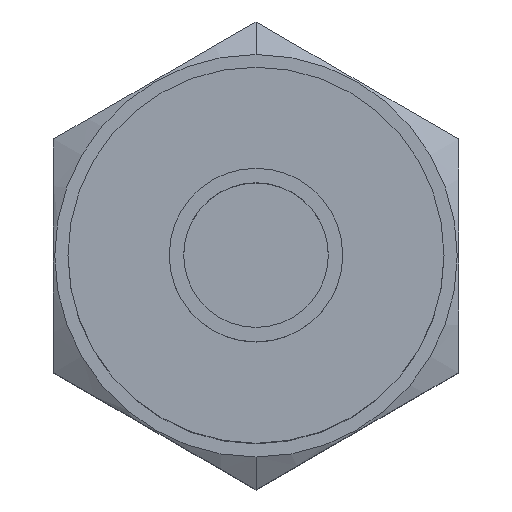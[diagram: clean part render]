
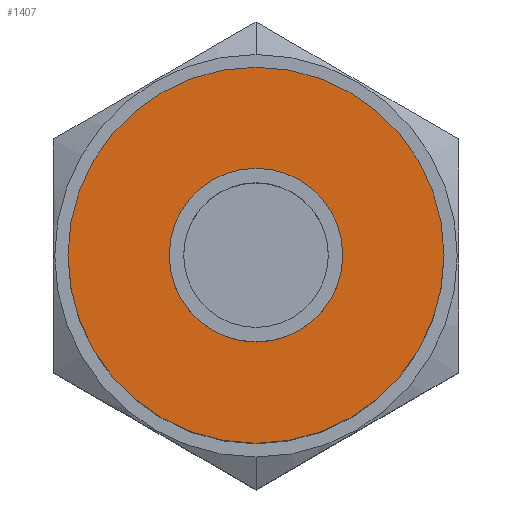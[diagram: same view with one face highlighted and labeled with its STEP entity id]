
A CAD part, top view. The second image highlights one B-rep face of the part: STEP entity #1407.
In plain terms, the highlighted planar face has unit normal (0, 0, 1).
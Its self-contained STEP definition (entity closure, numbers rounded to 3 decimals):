
#671=CARTESIAN_POINT('',(0.,0.,14.));
#672=DIRECTION('',(0.,0.,-1.));
#673=DIRECTION('',(0.,1.,0.));
#674=AXIS2_PLACEMENT_3D('',#671,#672,#673);
#676=CARTESIAN_POINT('',(0.,0.,14.));
#677=DIRECTION('',(0.,0.,1.));
#678=DIRECTION('',(0.,1.,0.));
#679=AXIS2_PLACEMENT_3D('',#676,#677,#678);
#689=CARTESIAN_POINT('',(0.,0.,14.));
#690=DIRECTION('',(0.,0.,1.));
#691=DIRECTION('',(0.,1.,0.));
#692=AXIS2_PLACEMENT_3D('',#689,#690,#691);
#694=CARTESIAN_POINT('',(0.,0.,14.));
#695=DIRECTION('',(0.,0.,-1.));
#696=DIRECTION('',(0.,1.,0.));
#697=AXIS2_PLACEMENT_3D('',#694,#695,#696);
#809=CARTESIAN_POINT('',(0.,3.,14.));
#811=VERTEX_POINT('',#809);
#823=CARTESIAN_POINT('',(0.,-3.,14.));
#825=VERTEX_POINT('',#823);
#827=CARTESIAN_POINT('',(0.,6.5,14.));
#828=CARTESIAN_POINT('',(0.,-6.5,14.));
#829=VERTEX_POINT('',#827);
#830=VERTEX_POINT('',#828);
#1392=CARTESIAN_POINT('',(0.,0.,14.));
#1393=DIRECTION('',(0.,0.,-1.));
#1394=DIRECTION('',(0.,-1.,0.));
#1395=AXIS2_PLACEMENT_3D('',#1392,#1393,#1394);
#1396=PLANE('',#1395);
#1397=ORIENTED_EDGE('',*,*,#1372,.T.);
#1398=ORIENTED_EDGE('',*,*,#1386,.F.);
#1399=EDGE_LOOP('',(#1397,#1398));
#1400=FACE_OUTER_BOUND('',#1399,.F.);
#1402=ORIENTED_EDGE('',*,*,#1401,.T.);
#1404=ORIENTED_EDGE('',*,*,#1403,.F.);
#1405=EDGE_LOOP('',(#1402,#1404));
#1406=FACE_BOUND('',#1405,.F.);
#1407=ADVANCED_FACE('',(#1400,#1406),#1396,.F.);
#675=CIRCLE('',#674,6.5);
#680=CIRCLE('',#679,6.5);
#693=CIRCLE('',#692,3.);
#698=CIRCLE('',#697,3.);
#1372=EDGE_CURVE('',#829,#830,#675,.T.);
#1386=EDGE_CURVE('',#829,#830,#680,.T.);
#1401=EDGE_CURVE('',#811,#825,#693,.T.);
#1403=EDGE_CURVE('',#811,#825,#698,.T.);
